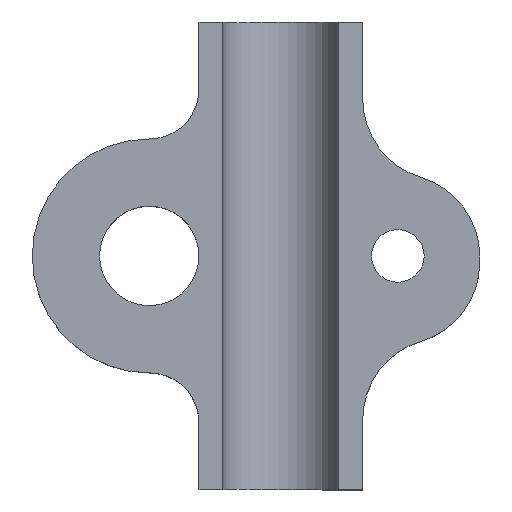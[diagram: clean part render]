
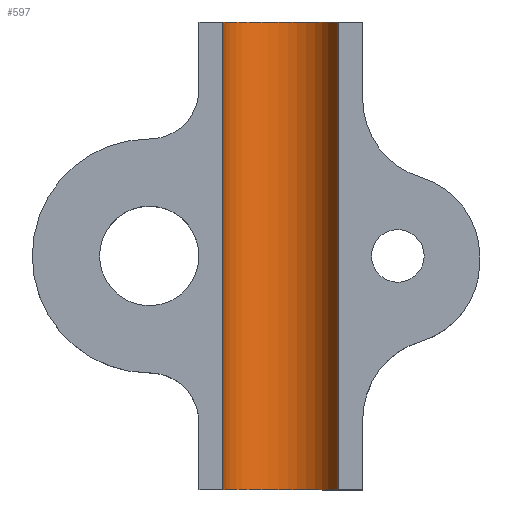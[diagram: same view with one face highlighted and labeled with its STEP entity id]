
A CAD part, top view. The second image highlights one B-rep face of the part: STEP entity #597.
In plain terms, the highlighted cylindrical face has radius 4.95 mm (diameter 9.9 mm), a partial arc.
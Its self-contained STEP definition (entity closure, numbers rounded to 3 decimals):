
#73=CARTESIAN_POINT('',(16.175,-20.0,6.5));
#74=VERTEX_POINT('',#73);
#75=CARTESIAN_POINT('',(16.175,20.0,6.5));
#76=VERTEX_POINT('',#75);
#77=CARTESIAN_POINT('',(16.175,-20.0,6.5));
#78=DIRECTION('',(0.0,1.0,0.0));
#79=VECTOR('',#78,40.0);
#80=LINE('',#77,#79);
#81=EDGE_CURVE('',#74,#76,#80,.T.);
#565=CARTESIAN_POINT('',(11.25,20.0,7.));
#566=DIRECTION('',(0.,-1.0,0.0));
#567=DIRECTION('',(-1.0,0.0,0.0));
#568=AXIS2_PLACEMENT_3D('',#565,#566,#567);
#569=CYLINDRICAL_SURFACE('',#568,4.95);
#570=ORIENTED_EDGE('',*,*,#81,.T.);
#571=CARTESIAN_POINT('',(6.3,20.,7.));
#572=VERTEX_POINT('',#571);
#573=CARTESIAN_POINT('',(11.25,20.,7.));
#574=DIRECTION('',(0.0,-1.0,0.0));
#575=DIRECTION('',(-1.0,0.0,0.0));
#576=AXIS2_PLACEMENT_3D('',#573,#574,#575);
#577=CIRCLE('',#576,4.95);
#578=EDGE_CURVE('',#572,#76,#577,.T.);
#579=ORIENTED_EDGE('',*,*,#578,.F.);
#580=CARTESIAN_POINT('',(6.3,-20.0,7.));
#581=VERTEX_POINT('',#580);
#582=CARTESIAN_POINT('',(6.3,-20.0,7.));
#583=DIRECTION('',(0.0,1.0,0.0));
#584=VECTOR('',#583,40.0);
#585=LINE('',#582,#584);
#586=EDGE_CURVE('',#581,#572,#585,.T.);
#587=ORIENTED_EDGE('',*,*,#586,.F.);
#588=CARTESIAN_POINT('',(11.25,-20.0,7.));
#589=DIRECTION('',(0.0,1.0,0.0));
#590=DIRECTION('',(-1.0,0.0,0.0));
#591=AXIS2_PLACEMENT_3D('',#588,#589,#590);
#592=CIRCLE('',#591,4.95);
#593=EDGE_CURVE('',#74,#581,#592,.T.);
#594=ORIENTED_EDGE('',*,*,#593,.F.);
#595=EDGE_LOOP('',(#570,#579,#587,#594));
#596=FACE_OUTER_BOUND('',#595,.T.);
#597=ADVANCED_FACE('',(#596),#569,.F.);
